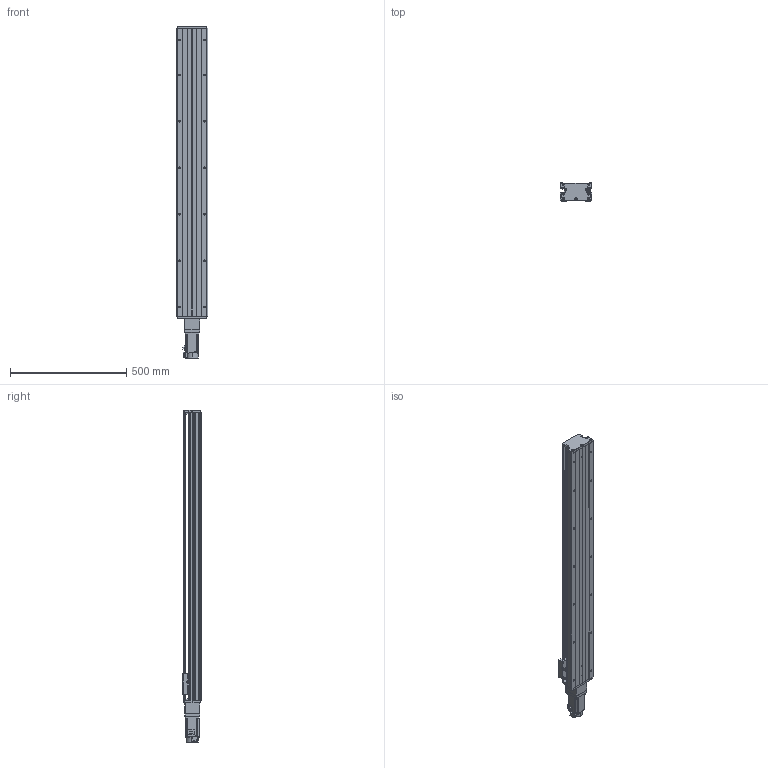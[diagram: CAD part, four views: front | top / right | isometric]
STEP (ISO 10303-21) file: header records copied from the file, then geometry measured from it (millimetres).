
FILE_DESCRIPTION (( 'STEP AP203' ), '1' );
FILE_NAME ('KTH130-1100-BC-M40-C4.step', '2023-06-30T03:53:06', ( '微软用户' ), ( '微软中国' ), 'SwSTEP 2.0', 'SolidWorks 2020', '' );
FILE_SCHEMA (( 'CONFIG_CONTROL_DESIGN' ));
Length unit declared in the file: millimetre
Products named in the file (19): GBT 70.2-M3¡Á5_M3¡Á6; GBT 70.3-M3℅8; GTH14-001_1100; CTHA60-017; CTHA86-006-1_M40; KTH130-002_KTH130-002; EE_SX911P_R; CTHA86-013; KTH130-004; CTHA60-016; CTHA86-027-1; KTH130-005; GBT 70.1-M3℅5; HG-KN43J-S100; GB1155-6X6; GBT77-2000 M3×3; KTH130-1100-BC-M40-C4; GBT70.1 M5℅16; す晦芛蹟隊 M3℅5
Assembly tree (52 placements, depth 2):
  KTH130-1100-BC-M40-C4
    GTH14-001_1100
    KTH130-002_KTH130-002
    KTH130-004
    KTH130-005
    GB1155-6X6  x2
    GBT70.1 M5℅16  x10
    GBT 70.2-M3¡Á5_M3¡Á6  x4
    CTHA60-017  x3
    EE_SX911P_R  x3
    CTHA60-016  x2
    GBT 70.1-M3℅5  x6
    GBT77-2000 M3×3  x6
    す晦芛蹟隊 M3℅5  x2
    GBT 70.3-M3℅8  x6
    CTHA86-006-1_M40
    CTHA86-013
    CTHA86-027-1
    HG-KN43J-S100
Bounding box: 135 x 78 x 1428.7 mm (x, y, z)
Volume: 7280603.1 mm3; surface area: 1090956.5 mm2
Topology: 55 solids, 55 shells, 2202 faces, 5326 edges, 3326 vertices
Faces by surface type: plane 1198, cylinder 616, cone 280, torus 96, sphere 12
Entity records: 40498 total; most frequent: CARTESIAN_POINT 8576, DIRECTION 6045, ORIENTED_EDGE 5936, EDGE_CURVE 2968, AXIS2_PLACEMENT_3D 2069, LINE 1907, VECTOR 1907, VERTEX_POINT 1898
